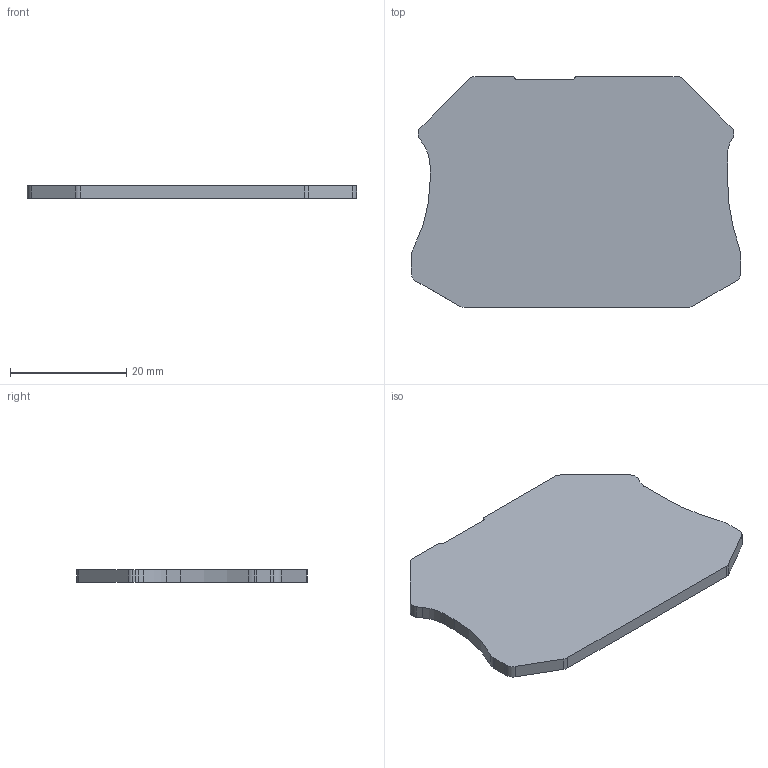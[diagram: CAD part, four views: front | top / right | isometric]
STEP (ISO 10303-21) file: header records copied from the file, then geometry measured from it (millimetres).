
FILE_DESCRIPTION(('OneSpaceDesigner STEP Export'),'2;1');
FILE_NAME('3047141_d_ut25_4_twin_select.1.stp','2004-10-21T13:32:43',(''),(''),'OneSpace Designer STEP processor (Jan. 2003) for AP203(Solid Model)','OneSpace Designer 12.01C 26-Mar-2004 (C) CoCreate Software GmbH','');
FILE_SCHEMA(('CONFIG_CONTROL_DESIGN'));
Length unit declared in the file: millimetre
Products named in the file (2): 3047141_d_ut25_4_twin_select.1
Assembly tree (1 placements, depth 2):
  3047141_d_ut25_4_twin_select.1
    3047141_d_ut25_4_twin_select.1
Bounding box: 56.8 x 39.8 x 2.2 mm (x, y, z)
Volume: 4442.6 mm3; surface area: 4421.9 mm2
Topology: 1 solids, 1 shells, 42 faces, 120 edges, 80 vertices
Faces by surface type: cylinder 22, plane 20
Entity records: 1789 total; most frequent: ORIENTED_EDGE 240, CARTESIAN_POINT 235, DIRECTION 234, EDGE_CURVE 120, VERTEX_POINT 80, AXIS2_PLACEMENT_3D 79, VECTOR 76, LINE 76
